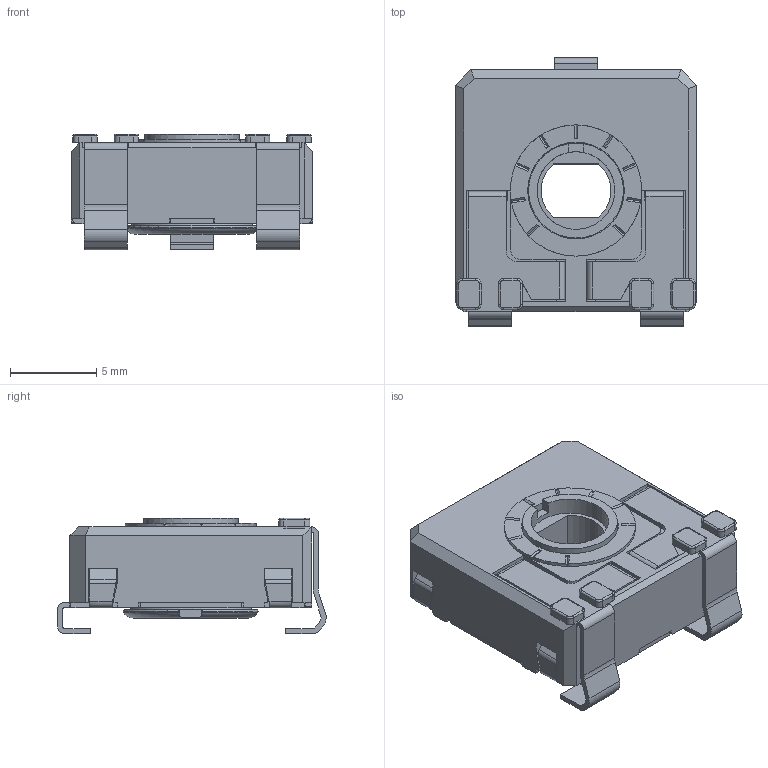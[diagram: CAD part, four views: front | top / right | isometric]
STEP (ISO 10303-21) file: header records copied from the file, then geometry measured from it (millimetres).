
FILE_DESCRIPTION(/* description */ (''),/* implementation_level */ '2;1');
FILE_NAME(/* name */ '\\SERVERACP\intercambio\Ignacio Santa Cecilia\Nueva WEB 2025\CA14 - CE14\CA14NVSMD.stp',/* time_stamp */ '2025-07-01T12:12:26+02:00',/* author */ ('CEM'),/* organization */ (''),/* preprocessor_version */ 'ST-DEVELOPER v17',/* originating_system */ 'Autodesk Inventor 2018',/* authorisation */ '');
FILE_SCHEMA (('AUTOMOTIVE_DESIGN { 1 0 10303 214 3 1 1 }'));
Length unit declared in the file: millimetre
Products named in the file (1): CARCASA CA14 PGA
Bounding box: 14 x 15.55 x 6.7 mm (x, y, z)
Volume: 538.4 mm3; surface area: 1473.7 mm2
Topology: 1 solids, 1 shells, 551 faces, 1563 edges, 999 vertices
Faces by surface type: plane 409, cylinder 105, torus 23, bspline 8, cone 6
Full cylindrical faces by diameter (mm): 4.5 x1, 5.5 x1, 5.6 x1, 5.752 x1, 6.8 x1, 7.6 x1
Entity records: 18111 total; most frequent: CARTESIAN_POINT 3411, ORIENTED_EDGE 3126, DIRECTION 2901, EDGE_CURVE 1563, LINE 1223, VECTOR 1223, VERTEX_POINT 999, AXIS2_PLACEMENT_3D 839
